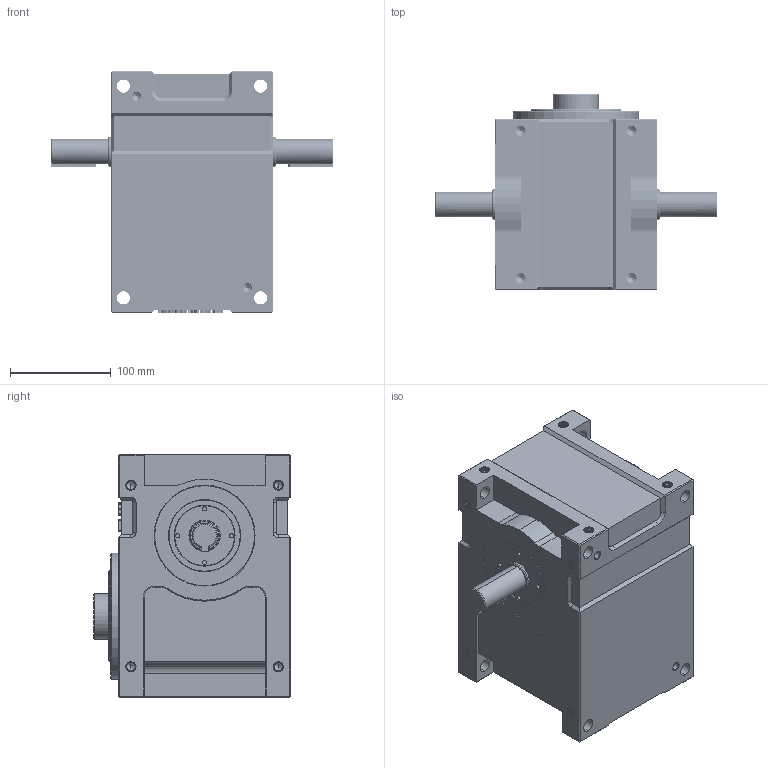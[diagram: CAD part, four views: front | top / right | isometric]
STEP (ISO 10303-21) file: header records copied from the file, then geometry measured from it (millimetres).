
FILE_DESCRIPTION (( 'STEP AP214' ), '1' );
FILE_NAME ('ER-RU80DF英锐凸轮分割器3D壳体和法兰面加销孔标准图纸(电话15062628977)AABB.STEP', '2022-08-13T06:13:09', ( '微软用户' ), ( '微软中国' ), 'SwSTEP 2.0', 'SolidWorks 2017', '' );
FILE_SCHEMA (( 'AUTOMOTIVE_DESIGN' ));
Length unit declared in the file: millimetre
Products named in the file (1): ER-RU80DF英锐凸轮分割器3D壳体和法兰面加销孔标准图纸(电话15062628977)AABB
Bounding box: 280 x 195 x 240 mm (x, y, z)
Volume: 6108859.6 mm3; surface area: 263079.2 mm2
Topology: 1 solids, 1 shells, 1574 faces, 4118 edges, 2633 vertices
Faces by surface type: cylinder 593, plane 447, bspline 360, cone 174
Entity records: 118285 total; most frequent: CARTESIAN_POINT 84276, ORIENTED_EDGE 8132, DIRECTION 5165, EDGE_CURVE 4066, VERTEX_POINT 2633, LINE 1967, VECTOR 1967, EDGE_LOOP 1729
